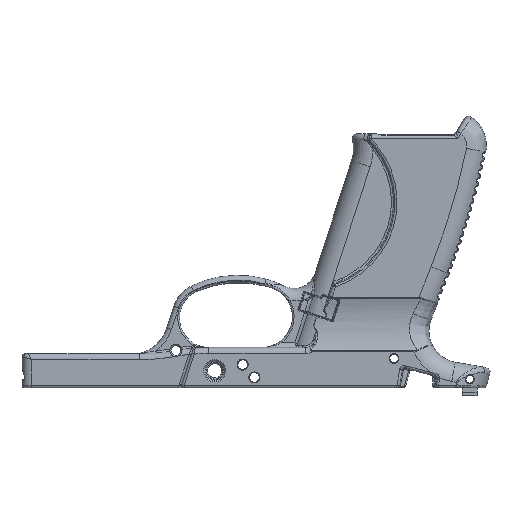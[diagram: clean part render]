
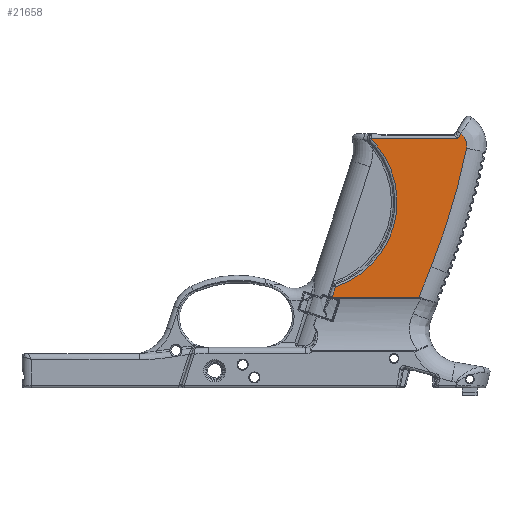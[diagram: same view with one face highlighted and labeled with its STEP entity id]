
A CAD part, front view. The second image highlights one B-rep face of the part: STEP entity #21658.
In plain terms, the highlighted planar face has unit normal (0, -1, 0).
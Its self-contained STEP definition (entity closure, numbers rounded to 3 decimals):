
#406=PLANE('',#23581);
#866=LINE('',#41075,#1970);
#1048=LINE('',#44862,#2152);
#1051=LINE('',#44885,#2155);
#1052=LINE('',#44888,#2156);
#1053=LINE('',#44892,#2157);
#1054=LINE('',#44894,#2158);
#1970=VECTOR('',#26685,10.);
#2152=VECTOR('',#27643,10.);
#2155=VECTOR('',#27656,10.);
#2156=VECTOR('',#27661,10.);
#2157=VECTOR('',#27664,10.);
#2158=VECTOR('',#27665,10.);
#3585=B_SPLINE_CURVE_WITH_KNOTS('',3,(#44896,#44897,#44898,#44899),
 .UNSPECIFIED.,.F.,.F.,(4,4),(0.,0.042),
 .UNSPECIFIED.);
#3586=B_SPLINE_CURVE_WITH_KNOTS('',3,(#44901,#44902,#44903,#44904),
 .UNSPECIFIED.,.F.,.F.,(4,4),(-0.882,-0.597),
 .UNSPECIFIED.);
#5016=FACE_OUTER_BOUND('',#6481,.T.);
#6481=EDGE_LOOP('',(#16820,#16821,#16822,#16823,#16824,#16825,#16826,#16827,
#16828,#16829,#16830));
#7653=CIRCLE('',#23047,282.274);
#7927=CIRCLE('',#23582,6.);
#7928=CIRCLE('',#23583,36.518);
#9207=VERTEX_POINT('',#36067);
#9208=VERTEX_POINT('',#36069);
#9321=VERTEX_POINT('',#41074);
#9646=VERTEX_POINT('',#44812);
#9647=VERTEX_POINT('',#44835);
#9653=VERTEX_POINT('',#44884);
#9654=VERTEX_POINT('',#44889);
#9655=VERTEX_POINT('',#44891);
#9656=VERTEX_POINT('',#44893);
#9657=VERTEX_POINT('',#44895);
#9658=VERTEX_POINT('',#44900);
#11386=EDGE_CURVE('',#9207,#9208,#7653,.T.);
#11610=EDGE_CURVE('',#9208,#9321,#866,.T.);
#12151=EDGE_CURVE('',#9647,#9646,#1048,.T.);
#12158=EDGE_CURVE('',#9646,#9653,#1051,.T.);
#12160=EDGE_CURVE('',#9321,#9647,#1052,.T.);
#12161=EDGE_CURVE('',#9654,#9207,#7927,.T.);
#12162=EDGE_CURVE('',#9655,#9654,#1053,.T.);
#12163=EDGE_CURVE('',#9656,#9655,#1054,.T.);
#12164=EDGE_CURVE('',#9657,#9656,#3585,.T.);
#12165=EDGE_CURVE('',#9658,#9657,#3586,.T.);
#12166=EDGE_CURVE('',#9653,#9658,#7928,.T.);
#16820=ORIENTED_EDGE('',*,*,#12151,.F.);
#16821=ORIENTED_EDGE('',*,*,#12160,.F.);
#16822=ORIENTED_EDGE('',*,*,#11610,.F.);
#16823=ORIENTED_EDGE('',*,*,#11386,.F.);
#16824=ORIENTED_EDGE('',*,*,#12161,.F.);
#16825=ORIENTED_EDGE('',*,*,#12162,.F.);
#16826=ORIENTED_EDGE('',*,*,#12163,.F.);
#16827=ORIENTED_EDGE('',*,*,#12164,.F.);
#16828=ORIENTED_EDGE('',*,*,#12165,.F.);
#16829=ORIENTED_EDGE('',*,*,#12166,.F.);
#16830=ORIENTED_EDGE('',*,*,#12158,.F.);
#21658=ADVANCED_FACE('',(#5016),#406,.T.);
#23047=AXIS2_PLACEMENT_3D('',#36070,#26345,#26346);
#23581=AXIS2_PLACEMENT_3D('',#44887,#27659,#27660);
#23582=AXIS2_PLACEMENT_3D('',#44890,#27662,#27663);
#23583=AXIS2_PLACEMENT_3D('',#44905,#27666,#27667);
#26345=DIRECTION('center_axis',(0.,1.,0.));
#26346=DIRECTION('ref_axis',(0.958,0.,-0.286));
#26685=DIRECTION('',(-0.371,0.,-0.929));
#27643=DIRECTION('',(-0.952,0.,0.306));
#27656=DIRECTION('',(0.309,0.,0.951));
#27659=DIRECTION('center_axis',(0.,-1.,0.));
#27660=DIRECTION('ref_axis',(1.,0.,0.));
#27661=DIRECTION('',(-1.,0.,0.));
#27662=DIRECTION('center_axis',(0.,1.,0.));
#27663=DIRECTION('ref_axis',(0.863,0.,0.505));
#27664=DIRECTION('',(0.531,0.,0.848));
#27665=DIRECTION('',(1.,0.,0.));
#27666=DIRECTION('center_axis',(0.,-1.,0.));
#27667=DIRECTION('ref_axis',(0.962,0.,-0.272));
#36067=CARTESIAN_POINT('',(89.046,-13.75,58.092));
#36069=CARTESIAN_POINT('',(74.571,-13.75,9.633));
#36070=CARTESIAN_POINT('Origin',(-187.57,-13.75,114.326));
#41074=CARTESIAN_POINT('',(69.538,-13.75,-2.968));
#41075=CARTESIAN_POINT('',(77.289,-13.75,16.44));
#44812=CARTESIAN_POINT('',(33.966,-13.75,-2.917));
#44835=CARTESIAN_POINT('',(34.127,-13.75,-2.968));
#44862=CARTESIAN_POINT('',(39.085,-13.75,-4.56));
#44884=CARTESIAN_POINT('',(35.343,-13.75,1.321));
#44885=CARTESIAN_POINT('',(35.678,-13.75,2.351));
#44887=CARTESIAN_POINT('Origin',(62.214,-13.75,30.354));
#44888=CARTESIAN_POINT('',(110.,-13.75,-2.968));
#44889=CARTESIAN_POINT('',(86.781,-13.75,64.076));
#44890=CARTESIAN_POINT('Origin',(83.166,-13.75,59.287));
#44891=CARTESIAN_POINT('',(85.482,-13.75,62.));
#44892=CARTESIAN_POINT('',(75.697,-13.75,46.369));
#44893=CARTESIAN_POINT('',(50.085,-13.75,62.));
#44894=CARTESIAN_POINT('',(51.607,-13.75,62.));
#44895=CARTESIAN_POINT('',(50.244,-13.75,61.619));
#44896=CARTESIAN_POINT('Ctrl Pts',(50.244,-13.75,61.619));
#44897=CARTESIAN_POINT('Ctrl Pts',(50.149,-13.75,61.723));
#44898=CARTESIAN_POINT('Ctrl Pts',(50.085,-13.75,61.859));
#44899=CARTESIAN_POINT('Ctrl Pts',(50.085,-13.75,62.));
#44900=CARTESIAN_POINT('',(52.112,-13.75,59.473));
#44901=CARTESIAN_POINT('Ctrl Pts',(52.112,-13.75,59.473));
#44902=CARTESIAN_POINT('Ctrl Pts',(51.504,-13.75,60.201));
#44903=CARTESIAN_POINT('Ctrl Pts',(50.881,-13.75,60.916));
#44904=CARTESIAN_POINT('Ctrl Pts',(50.244,-13.75,61.619));
#44905=CARTESIAN_POINT('Origin',(24.087,-13.75,36.061));
